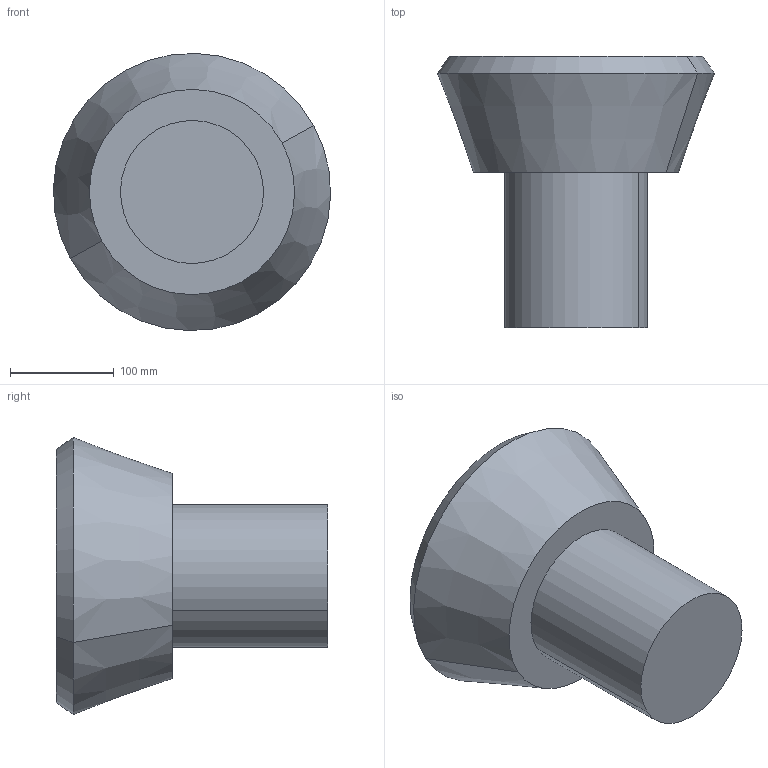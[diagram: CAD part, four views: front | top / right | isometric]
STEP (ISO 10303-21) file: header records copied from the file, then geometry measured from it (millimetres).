
FILE_DESCRIPTION(('CATIA V5 STEP Exchange'),'2;1');
FILE_NAME('C:\_Andres\UNIVERSIDAD\IQS\ASIGNATURAS\DAO\EXF\EXF-15161c\1original\Formosa_Marín_Ej09-optimiza_v9.stp','2016-03-04T21:55:28+00:00',('none'),('none'),'CATIA Version 5 Release 20 SP 1 (IN-10)','CATIA V5 STEP AP203','none');
FILE_SCHEMA(('CONFIG_CONTROL_DESIGN'));
Length unit declared in the file: millimetre
Products named in the file (1): Formosa_Marín_Ej09-optimiza_v9
Bounding box: 267.4 x 261.82 x 267.4 mm (x, y, z)
Volume: 7158989 mm3; surface area: 237529.9 mm2
Topology: 1 solids, 2 shells, 13 faces, 22 edges, 14 vertices
Faces by surface type: plane 5, cylinder 4, cone 4
Entity records: 324 total; most frequent: CARTESIAN_POINT 47, ORIENTED_EDGE 44, DIRECTION 42, AXIS2_PLACEMENT_3D 25, EDGE_CURVE 22, CIRCLE 14, EDGE_LOOP 14, VERTEX_POINT 14
